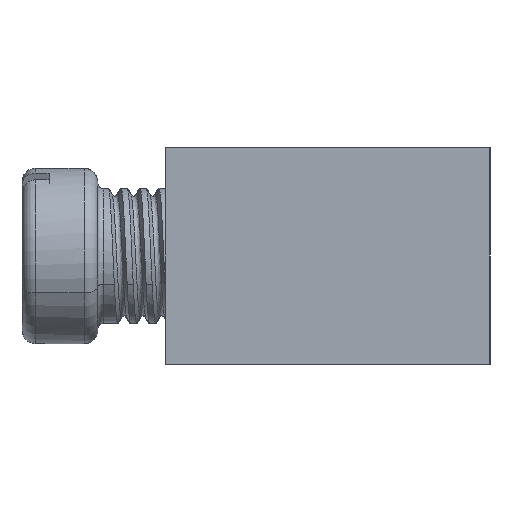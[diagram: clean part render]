
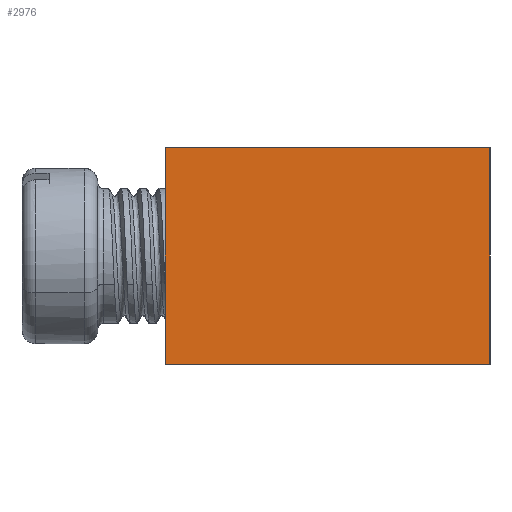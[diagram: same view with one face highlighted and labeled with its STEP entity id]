
A CAD part, left-side view. The second image highlights one B-rep face of the part: STEP entity #2976.
In plain terms, the highlighted planar face has unit normal (-1, 0, 0).
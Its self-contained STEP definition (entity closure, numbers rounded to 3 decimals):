
#69 = VERTEX_POINT ( 'NONE', #6841 ) ;
#294 = CARTESIAN_POINT ( 'NONE',  ( 0., 12., -8. ) ) ;
#335 = CARTESIAN_POINT ( 'NONE',  ( 0., 0., 0. ) ) ;
#477 = CARTESIAN_POINT ( 'NONE',  ( 0., 12., -8. ) ) ;
#1007 = VECTOR ( 'NONE', #5434, 1000. ) ;
#1164 = AXIS2_PLACEMENT_3D ( 'NONE', #1951, #2532, #6498 ) ;
#1447 = VECTOR ( 'NONE', #5550, 1000. ) ;
#1625 = LINE ( 'NONE', #6674, #1447 ) ;
#1792 = LINE ( 'NONE', #477, #5268 ) ;
#1951 = CARTESIAN_POINT ( 'NONE',  ( 0., 0., -8. ) ) ;
#2099 = ORIENTED_EDGE ( 'NONE', *, *, #5731, .F. ) ;
#2284 = VERTEX_POINT ( 'NONE', #6254 ) ;
#2502 = EDGE_LOOP ( 'NONE', ( #2099, #6068, #6922, #7170 ) ) ;
#2517 = LINE ( 'NONE', #3150, #1007 ) ;
#2532 = DIRECTION ( 'NONE',  ( -1., 0., 0. ) ) ;
#2867 = VECTOR ( 'NONE', #7081, 1000. ) ;
#2976 = ADVANCED_FACE ( 'NONE', ( #3206 ), #5367, .T. ) ;
#3043 = VERTEX_POINT ( 'NONE', #335 ) ;
#3150 = CARTESIAN_POINT ( 'NONE',  ( 0., 0., -8. ) ) ;
#3206 = FACE_OUTER_BOUND ( 'NONE', #2502, .T. ) ;
#3695 = CARTESIAN_POINT ( 'NONE',  ( 0., 0., 0. ) ) ;
#5268 = VECTOR ( 'NONE', #7261, 1000. ) ;
#5367 = PLANE ( 'NONE',  #1164 ) ;
#5434 = DIRECTION ( 'NONE',  ( 0., 0., 1. ) ) ;
#5550 = DIRECTION ( 'NONE',  ( 0., -1., 0. ) ) ;
#5731 = EDGE_CURVE ( 'NONE', #69, #3043, #7202, .T. ) ;
#5787 = EDGE_CURVE ( 'NONE', #2284, #3043, #2517, .T. ) ;
#5939 = EDGE_CURVE ( 'NONE', #7270, #2284, #1625, .T. ) ;
#5986 = EDGE_CURVE ( 'NONE', #7270, #69, #1792, .T. ) ;
#6068 = ORIENTED_EDGE ( 'NONE', *, *, #5986, .F. ) ;
#6254 = CARTESIAN_POINT ( 'NONE',  ( 0., 0., -8. ) ) ;
#6498 = DIRECTION ( 'NONE',  ( 0., 0., 1. ) ) ;
#6674 = CARTESIAN_POINT ( 'NONE',  ( 0., 0., -8. ) ) ;
#6841 = CARTESIAN_POINT ( 'NONE',  ( 0., 12., 0. ) ) ;
#6922 = ORIENTED_EDGE ( 'NONE', *, *, #5939, .T. ) ;
#7081 = DIRECTION ( 'NONE',  ( 0., -1., 0. ) ) ;
#7170 = ORIENTED_EDGE ( 'NONE', *, *, #5787, .T. ) ;
#7202 = LINE ( 'NONE', #3695, #2867 ) ;
#7261 = DIRECTION ( 'NONE',  ( 0., 0., 1. ) ) ;
#7270 = VERTEX_POINT ( 'NONE', #294 ) ;
